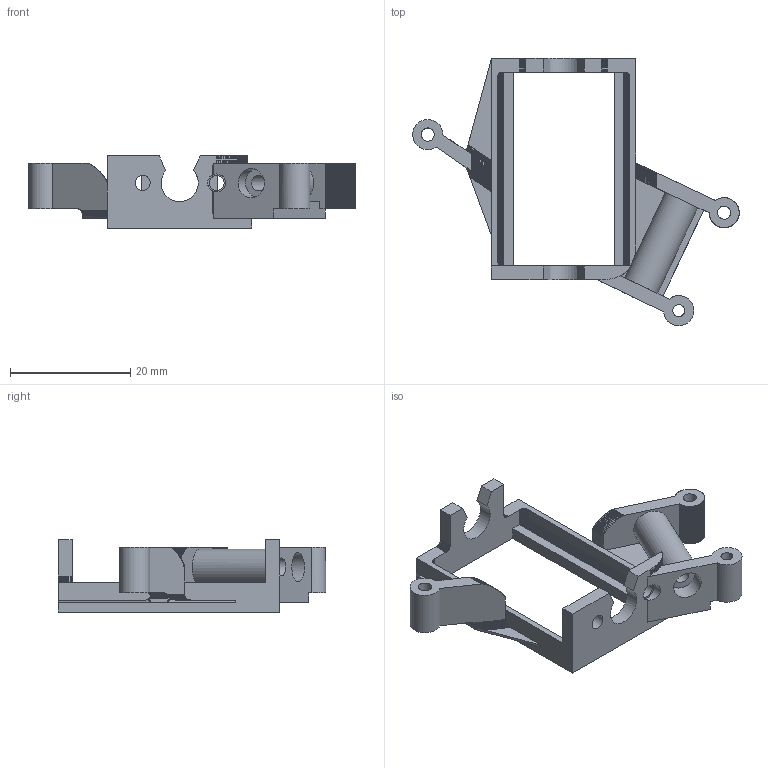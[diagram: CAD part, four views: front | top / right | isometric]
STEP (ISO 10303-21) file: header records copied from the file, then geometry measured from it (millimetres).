
FILE_DESCRIPTION(('Open CASCADE Model'),'2;1');
FILE_NAME('Open CASCADE Shape Model','2026-10-27T00:23:10',('Author'),( 'Open CASCADE'),'Open CASCADE STEP processor 7.9','Open CASCADE 7.9' ,'Unknown');
FILE_SCHEMA(('AUTOMOTIVE_DESIGN { 1 0 10303 214 1 1 1 1 }'));
Length unit declared in the file: millimetre
Products named in the file (1): Open CASCADE STEP translator 7.9 1
Bounding box: 54.26 x 44.43 x 12 mm (x, y, z)
Volume: 3280.6 mm3; surface area: 4303 mm2
Topology: 1 solids, 1 shells, 2080 faces, 3856 edges, 1778 vertices
Faces by surface type: plane 1323, bspline 743, cylinder 14
Full cylindrical faces by diameter (mm): 2 x1, 2.2 x2, 2.5 x2, 2.6 x1, 3 x1, 4.85 x2
Entity records: 113501 total; most frequent: CARTESIAN_POINT 56081, B_SPLINE_CURVE_WITH_KNOTS 11118, ORIENTED_EDGE 7712, PCURVE 7712, DEFINITIONAL_REPRESENTATION 7712, EDGE_CURVE 3856, SURFACE_CURVE 3847, DIRECTION 3132
